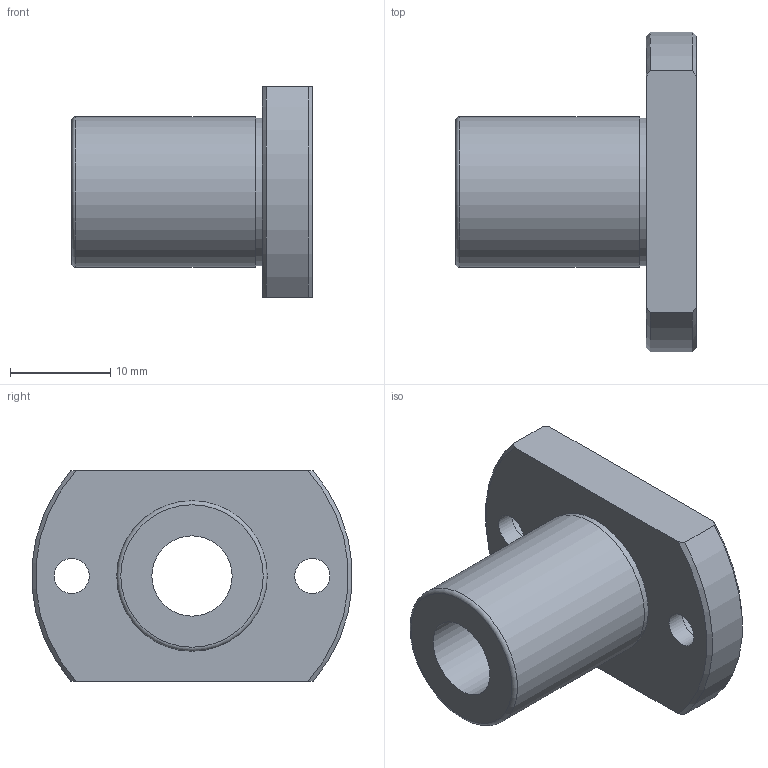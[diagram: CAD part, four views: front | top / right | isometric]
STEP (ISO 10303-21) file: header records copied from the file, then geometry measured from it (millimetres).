
FILE_DESCRIPTION(('STEP AP203'),'1');
FILE_NAME('//192.168.1.1/share/s-4 技術開発/s-4-4_CAD/s-4-4-3_見直し済み/002 修正済み/NFEO-V/NFEO-8VUU.step','2022-03-07T03:07:48',(' '),(' '),'Spatial InterOp 3D',' ',' ');
FILE_SCHEMA(('CONFIG_CONTROL_DESIGN'));
Length unit declared in the file: millimetre
Products named in the file (1): 1
Bounding box: 24 x 31.9 x 21 mm (x, y, z)
Volume: 5025.7 mm3; surface area: 3211.7 mm2
Topology: 1 solids, 1 shells, 22 faces, 51 edges, 35 vertices
Faces by surface type: cylinder 9, plane 8, cone 4, torus 1
Full cylindrical faces by diameter (mm): 3.5 x2, 6 x2, 8 x1, 14.7 x1, 15 x1
Entity records: 630 total; most frequent: CARTESIAN_POINT 117, DIRECTION 100, ORIENTED_EDGE 78, AXIS2_PLACEMENT_3D 46, EDGE_LOOP 40, EDGE_CURVE 39, VERTEX_POINT 31, FACE_OUTER_BOUND 30
